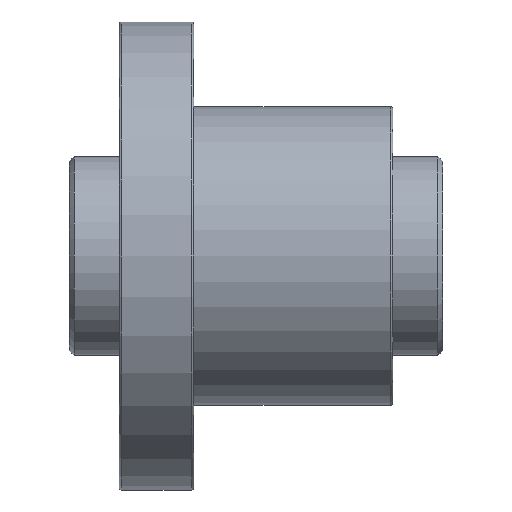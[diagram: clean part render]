
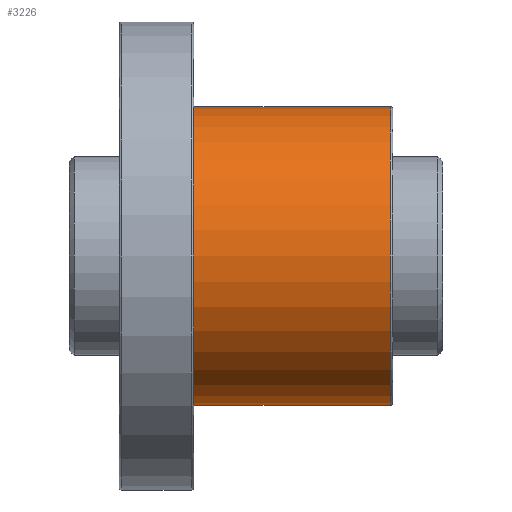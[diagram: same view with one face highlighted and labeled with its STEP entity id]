
A CAD part, front view. The second image highlights one B-rep face of the part: STEP entity #3226.
In plain terms, the highlighted cylindrical face has radius 30 mm (diameter 60 mm), a partial arc.
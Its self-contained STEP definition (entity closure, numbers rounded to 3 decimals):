
#83 = CARTESIAN_POINT ( 'NONE',  ( 55., 0., 0. ) ) ;
#249 = CARTESIAN_POINT ( 'NONE',  ( 15., 0., 0. ) ) ;
#388 = EDGE_LOOP ( 'NONE', ( #1212, #473, #753, #2424 ) ) ;
#465 = LINE ( 'NONE', #3305, #564 ) ;
#473 = ORIENTED_EDGE ( 'NONE', *, *, #2238, .T. ) ;
#564 = VECTOR ( 'NONE', #3351, 1000. ) ;
#753 = ORIENTED_EDGE ( 'NONE', *, *, #1493, .T. ) ;
#763 = CIRCLE ( 'NONE', #2577, 30. ) ;
#984 = DIRECTION ( 'NONE',  ( 0., 0., 1. ) ) ;
#1130 = DIRECTION ( 'NONE',  ( 0., 0., 1. ) ) ;
#1212 = ORIENTED_EDGE ( 'NONE', *, *, #3985, .F. ) ;
#1226 = VERTEX_POINT ( 'NONE', #2096 ) ;
#1493 = EDGE_CURVE ( 'NONE', #1600, #1518, #2951, .T. ) ;
#1518 = VERTEX_POINT ( 'NONE', #2955 ) ;
#1552 = EDGE_CURVE ( 'NONE', #1226, #1518, #763, .T. ) ;
#1600 = VERTEX_POINT ( 'NONE', #1833 ) ;
#1703 = CARTESIAN_POINT ( 'NONE',  ( 54.5, 0., 0. ) ) ;
#1714 = VERTEX_POINT ( 'NONE', #2173 ) ;
#1833 = CARTESIAN_POINT ( 'NONE',  ( 54.5, 0., 30. ) ) ;
#2096 = CARTESIAN_POINT ( 'NONE',  ( 15., 0., -30. ) ) ;
#2118 = DIRECTION ( 'NONE',  ( 0., 0., 1. ) ) ;
#2173 = CARTESIAN_POINT ( 'NONE',  ( 54.5, 0., -30. ) ) ;
#2193 = CIRCLE ( 'NONE', #2548, 30. ) ;
#2238 = EDGE_CURVE ( 'NONE', #1714, #1600, #2193, .T. ) ;
#2314 = CYLINDRICAL_SURFACE ( 'NONE', #2339, 30. ) ;
#2339 = AXIS2_PLACEMENT_3D ( 'NONE', #83, #3792, #984 ) ;
#2424 = ORIENTED_EDGE ( 'NONE', *, *, #1552, .F. ) ;
#2548 = AXIS2_PLACEMENT_3D ( 'NONE', #1703, #3905, #1130 ) ;
#2577 = AXIS2_PLACEMENT_3D ( 'NONE', #249, #3692, #2118 ) ;
#2899 = FACE_OUTER_BOUND ( 'NONE', #388, .T. ) ;
#2951 = LINE ( 'NONE', #2998, #4019 ) ;
#2955 = CARTESIAN_POINT ( 'NONE',  ( 15., 0., 30. ) ) ;
#2998 = CARTESIAN_POINT ( 'NONE',  ( 55., 0., 30. ) ) ;
#3226 = ADVANCED_FACE ( 'NONE', ( #2899 ), #2314, .T. ) ;
#3305 = CARTESIAN_POINT ( 'NONE',  ( 55., 0., -30. ) ) ;
#3351 = DIRECTION ( 'NONE',  ( -1., 0., 0. ) ) ;
#3692 = DIRECTION ( 'NONE',  ( -1., 0., 0. ) ) ;
#3792 = DIRECTION ( 'NONE',  ( -1., 0., 0. ) ) ;
#3903 = DIRECTION ( 'NONE',  ( -1., 0., 0. ) ) ;
#3905 = DIRECTION ( 'NONE',  ( -1., 0., 0. ) ) ;
#3985 = EDGE_CURVE ( 'NONE', #1714, #1226, #465, .T. ) ;
#4019 = VECTOR ( 'NONE', #3903, 1000. ) ;
